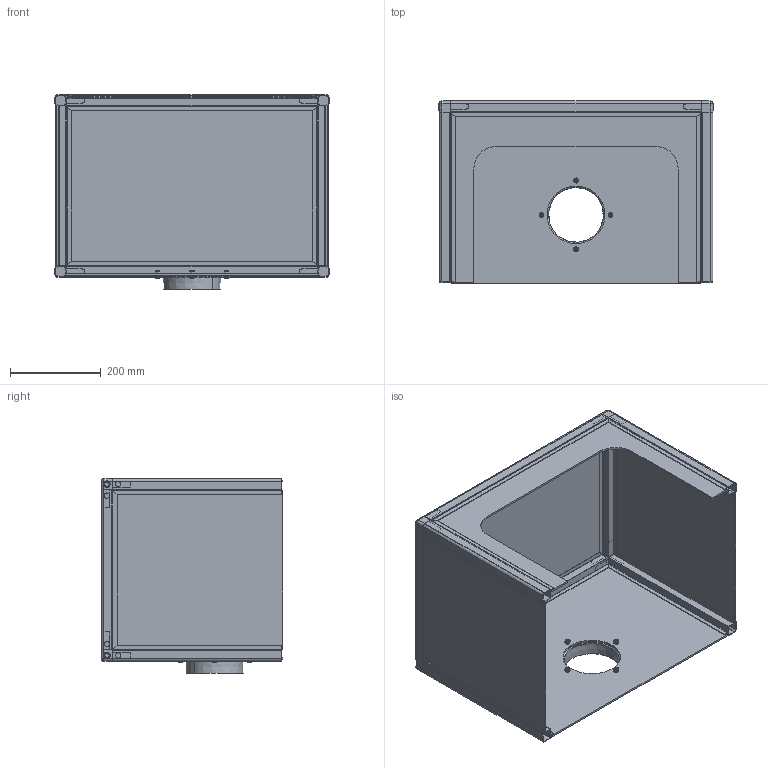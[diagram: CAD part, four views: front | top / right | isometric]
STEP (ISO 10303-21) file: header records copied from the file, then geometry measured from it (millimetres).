
FILE_DESCRIPTION((''),'2;1');
FILE_NAME('107338','2020-01-14T08:04:41',('Tomas Bellgran'),(''),'CREO PARAMETRIC BY PTC INC, 2018260','CREO PARAMETRIC BY PTC INC, 2018260','');
FILE_SCHEMA(('AUTOMOTIVE_DESIGN { 1 0 10303 214 1 1 1 1 }'));
Length unit declared in the file: millimetre
Products named in the file (22): 107314_AF0; 107113; 107295; 107294; 107298; 107335_AF0; 107310; 107111; 107299; 107121; 107328; 107312; 107311; 107610_AF5; 107604; 9908241; 9916661; LOCK_NUT_M6_DIN985-REF; LOCK_NUT_M6_DIN985_PL-REF; 100106; 107299-01; 107338
Assembly tree (47 placements, depth 4):
  107338
    107335_AF0
      107314_AF0
      107113  x2
      107298  x4
        107295
        107294
    107328  x2
      107310
      107111
      107299
      107121
    107312
    107311
    107610_AF5
    107604  x4
    9908241  x8
    9916661  x4
    100106  x4
      LOCK_NUT_M6_DIN985-REF
      LOCK_NUT_M6_DIN985_PL-REF
    107299-01  x4
Bounding box: 603.9 x 400 x 429 mm (x, y, z)
Volume: 3836483.6 mm3; surface area: 2490144 mm2
Topology: 54 solids, 70 shells, 1184 faces, 2720 edges, 1720 vertices
Faces by surface type: plane 688, cylinder 314, cone 150, torus 28, sphere 4
Entity records: 24734 total; most frequent: CARTESIAN_POINT 5519, DIRECTION 2227, ORIENTED_EDGE 1672, PROPERTY_DEFINITION 1013, REPRESENTATION 992, PROPERTY_DEFINITION_REPRESENTATION 992, PRESENTATION_STYLE_ASSIGNMENT 882, STYLED_ITEM 878
